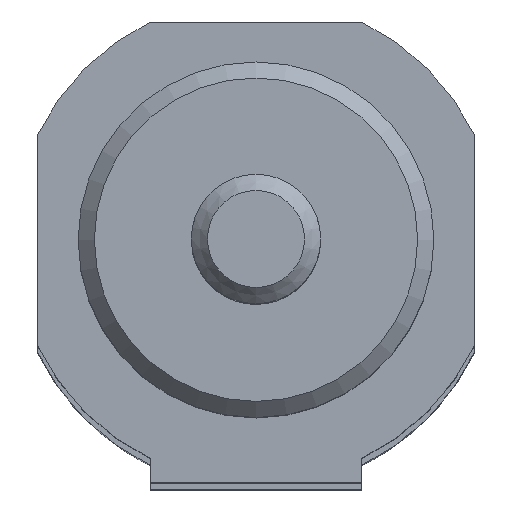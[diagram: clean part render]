
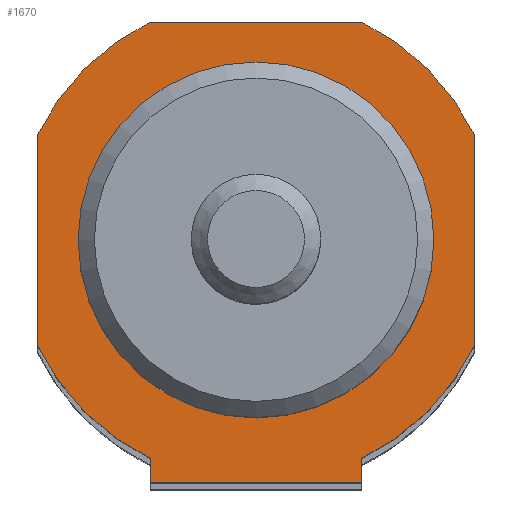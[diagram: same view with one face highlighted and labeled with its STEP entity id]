
A CAD part, top view. The second image highlights one B-rep face of the part: STEP entity #1670.
In plain terms, the highlighted planar face has unit normal (0, 0, 1).
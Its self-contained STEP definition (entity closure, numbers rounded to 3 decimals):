
#101=CARTESIAN_POINT('',(6.538,-15.,281.));
#102=VERTEX_POINT('',#101);
#103=CARTESIAN_POINT('',(-6.538,-15.,281.));
#104=VERTEX_POINT('',#103);
#105=CARTESIAN_POINT('',(6.538,-15.,281.));
#106=DIRECTION('',(-1.0,0.0,0.0));
#107=VECTOR('',#106,13.077);
#108=LINE('',#105,#107);
#109=EDGE_CURVE('',#102,#104,#108,.T.);
#257=CARTESIAN_POINT('',(-6.538,-13.5,281.));
#258=VERTEX_POINT('',#257);
#272=CARTESIAN_POINT('',(-6.538,-13.5,281.));
#273=DIRECTION('',(0.0,-1.0,0.0));
#274=VECTOR('',#273,1.5);
#275=LINE('',#272,#274);
#276=EDGE_CURVE('',#258,#104,#275,.T.);
#288=CARTESIAN_POINT('',(6.538,-13.5,281.));
#289=VERTEX_POINT('',#288);
#296=CARTESIAN_POINT('',(6.538,-13.5,281.));
#297=DIRECTION('',(0.0,-1.0,0.0));
#298=VECTOR('',#297,1.5);
#299=LINE('',#296,#298);
#300=EDGE_CURVE('',#289,#102,#299,.T.);
#1398=CARTESIAN_POINT('',(11.0,0.,281.));
#1399=VERTEX_POINT('',#1398);
#1400=CARTESIAN_POINT('',(0.,0.,281.));
#1401=DIRECTION('',(0.0,0.0,-1.0));
#1402=DIRECTION('',(-1.0,0.0,0.0));
#1403=AXIS2_PLACEMENT_3D('',#1400,#1401,#1402);
#1404=CIRCLE('',#1403,11.0);
#1405=EDGE_CURVE('',#1399,#1399,#1404,.T.);
#1490=CARTESIAN_POINT('',(-6.538,13.5,281.));
#1491=VERTEX_POINT('',#1490);
#1492=CARTESIAN_POINT('',(6.538,13.5,281.));
#1493=VERTEX_POINT('',#1492);
#1494=CARTESIAN_POINT('',(-6.538,13.5,281.));
#1495=DIRECTION('',(1.0,0.0,0.0));
#1496=VECTOR('',#1495,13.077);
#1497=LINE('',#1494,#1496);
#1498=EDGE_CURVE('',#1491,#1493,#1497,.T.);
#1521=CARTESIAN_POINT('',(13.5,6.538,281.));
#1522=VERTEX_POINT('',#1521);
#1523=CARTESIAN_POINT('',(0.,0.,281.0));
#1524=DIRECTION('',(0.,0.,-1.0));
#1525=DIRECTION('',(0.9,0.436,0.));
#1526=AXIS2_PLACEMENT_3D('',#1523,#1524,#1525);
#1527=CIRCLE('',#1526,15.);
#1528=EDGE_CURVE('',#1493,#1522,#1527,.T.);
#1546=CARTESIAN_POINT('',(13.5,-6.538,281.));
#1547=VERTEX_POINT('',#1546);
#1548=CARTESIAN_POINT('',(13.5,6.538,281.));
#1549=DIRECTION('',(0.0,-1.0,0.0));
#1550=VECTOR('',#1549,13.077);
#1551=LINE('',#1548,#1550);
#1552=EDGE_CURVE('',#1522,#1547,#1551,.T.);
#1570=CARTESIAN_POINT('',(0.,0.,281.0));
#1571=DIRECTION('',(0.,0.,-1.0));
#1572=DIRECTION('',(0.436,-0.9,0.));
#1573=AXIS2_PLACEMENT_3D('',#1570,#1571,#1572);
#1574=CIRCLE('',#1573,15.);
#1575=EDGE_CURVE('',#1547,#289,#1574,.T.);
#1588=CARTESIAN_POINT('',(-13.5,-6.538,281.));
#1589=VERTEX_POINT('',#1588);
#1590=CARTESIAN_POINT('',(0.,0.,281.0));
#1591=DIRECTION('',(0.,0.,-1.0));
#1592=DIRECTION('',(-0.9,-0.436,0.));
#1593=AXIS2_PLACEMENT_3D('',#1590,#1591,#1592);
#1594=CIRCLE('',#1593,15.);
#1595=EDGE_CURVE('',#258,#1589,#1594,.T.);
#1613=CARTESIAN_POINT('',(-13.5,6.538,281.));
#1614=VERTEX_POINT('',#1613);
#1615=CARTESIAN_POINT('',(-13.5,-6.538,281.));
#1616=DIRECTION('',(0.0,1.0,0.0));
#1617=VECTOR('',#1616,13.077);
#1618=LINE('',#1615,#1617);
#1619=EDGE_CURVE('',#1589,#1614,#1618,.T.);
#1637=CARTESIAN_POINT('',(0.,0.,281.0));
#1638=DIRECTION('',(0.,0.,-1.0));
#1639=DIRECTION('',(-0.436,0.9,0.));
#1640=AXIS2_PLACEMENT_3D('',#1637,#1638,#1639);
#1641=CIRCLE('',#1640,15.);
#1642=EDGE_CURVE('',#1614,#1491,#1641,.T.);
#1650=CARTESIAN_POINT('',(0.,0.0,281.));
#1651=DIRECTION('',(0.0,0.0,1.0));
#1652=DIRECTION('',(1.0,0.0,0.0));
#1653=AXIS2_PLACEMENT_3D('',#1650,#1651,#1652);
#1654=PLANE('',#1653);
#1655=ORIENTED_EDGE('',*,*,#1498,.F.);
#1656=ORIENTED_EDGE('',*,*,#1642,.F.);
#1657=ORIENTED_EDGE('',*,*,#1619,.F.);
#1658=ORIENTED_EDGE('',*,*,#1595,.F.);
#1659=ORIENTED_EDGE('',*,*,#276,.T.);
#1660=ORIENTED_EDGE('',*,*,#109,.F.);
#1661=ORIENTED_EDGE('',*,*,#300,.F.);
#1662=ORIENTED_EDGE('',*,*,#1575,.F.);
#1663=ORIENTED_EDGE('',*,*,#1552,.F.);
#1664=ORIENTED_EDGE('',*,*,#1528,.F.);
#1665=EDGE_LOOP('',(#1655,#1656,#1657,#1658,#1659,#1660,#1661,#1662,#1663,#1664));
#1666=FACE_OUTER_BOUND('',#1665,.T.);
#1667=ORIENTED_EDGE('',*,*,#1405,.T.);
#1668=EDGE_LOOP('',(#1667));
#1669=FACE_BOUND('',#1668,.T.);
#1670=ADVANCED_FACE('',(#1666,#1669),#1654,.T.);
